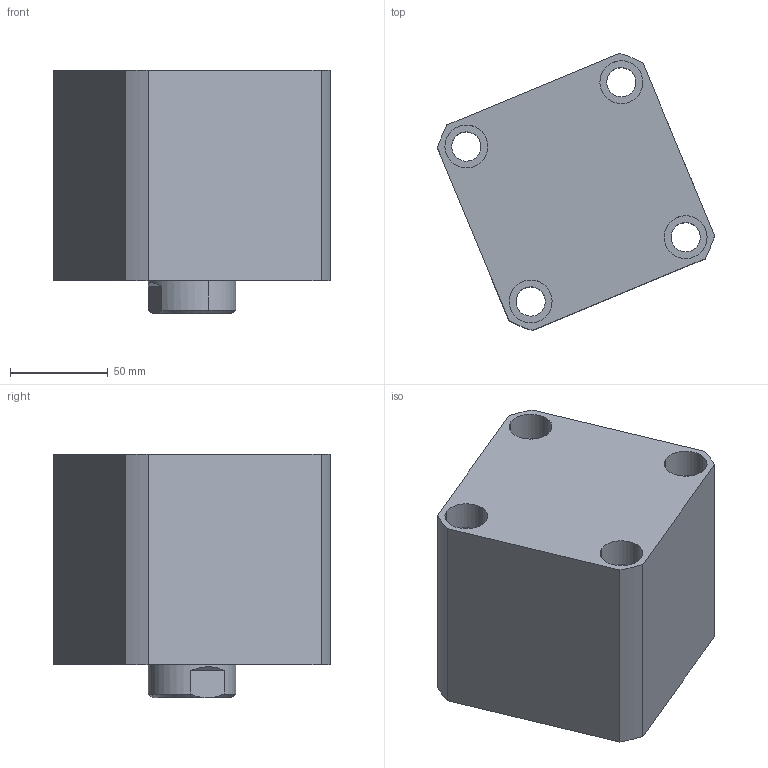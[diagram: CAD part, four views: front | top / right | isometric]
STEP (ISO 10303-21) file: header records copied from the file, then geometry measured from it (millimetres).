
FILE_DESCRIPTION (( 'STEP AP214' ), '1' );
FILE_NAME ('chtb-sd80x30n_asm.STEP', '2018-05-26T07:23:42', ( 'Windows' ), ( 'Microsoft' ), 'SwSTEP 2.0', 'SolidWorks 2015', '' );
FILE_SCHEMA (( 'AUTOMOTIVE_DESIGN' ));
Length unit declared in the file: millimetre
Products named in the file (4): CHTB-SD80X30NHSG; CHTB-SD80X30NBT; CHTB-SD80QG; chtb-sd80x30n_asm
Assembly tree (3 placements, depth 2):
  chtb-sd80x30n_asm
    CHTB-SD80QG
    CHTB-SD80X30NBT
    CHTB-SD80X30NHSG
Bounding box: 142.06 x 142.06 x 125 mm (x, y, z)
Volume: 1166331.5 mm3; surface area: 180346.2 mm2
Topology: 3 solids, 3 shells, 192 faces, 510 edges, 341 vertices
Faces by surface type: cylinder 103, plane 37, cone 20, torus 18, bspline 14
Entity records: 15144 total; most frequent: CARTESIAN_POINT 10435, ORIENTED_EDGE 1008, DIRECTION 889, EDGE_CURVE 504, AXIS2_PLACEMENT_3D 374, VERTEX_POINT 341, EDGE_LOOP 229, FACE_OUTER_BOUND 192
